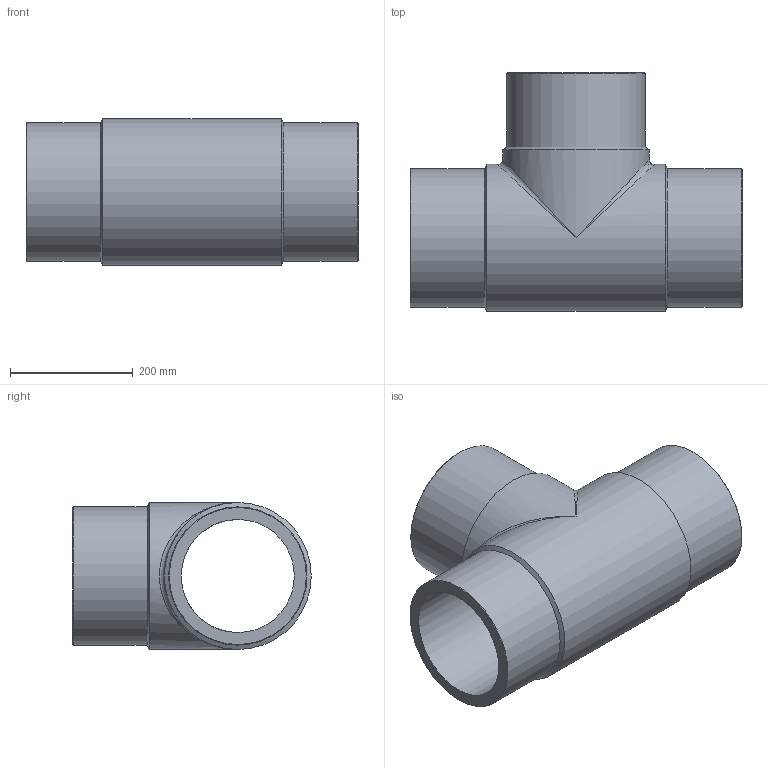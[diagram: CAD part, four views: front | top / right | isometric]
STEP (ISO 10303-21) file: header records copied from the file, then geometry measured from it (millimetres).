
FILE_DESCRIPTION(/* description */ ('Unknown'),/* implementation_level */ '2;1');
FILE_NAME(/* name */ 'TP225C',/* time_stamp */ '2021-08-06T10:06:22+02:00',/* author */ ('Unknown'),/* organization */ ('Unknown'),/* preprocessor_version */ 'ST-DEVELOPER v16.7',/* originating_system */ 'Solid Edge',/* authorisation */ 'Unknown');
FILE_SCHEMA (('AUTOMOTIVE_DESIGN {1 0 10303 214 3 1 1}'));
Length unit declared in the file: millimetre
Products named in the file (1): TP225C
Bounding box: 540 x 388 x 239 mm (x, y, z)
Volume: 10419164.2 mm3; surface area: 922380.7 mm2
Topology: 1 solids, 1 shells, 18 faces, 44 edges, 23 vertices
Faces by surface type: cylinder 7, cone 6, plane 3, bspline 2
Full cylindrical faces by diameter (mm): 184 x2, 225 x3, 239 x2
Entity records: 528 total; most frequent: CARTESIAN_POINT 171, DIRECTION 76, ORIENTED_EDGE 42, AXIS2_PLACEMENT_3D 38, EDGE_LOOP 36, FACE_BOUND 36, EDGE_CURVE 21, VERTEX_POINT 19
